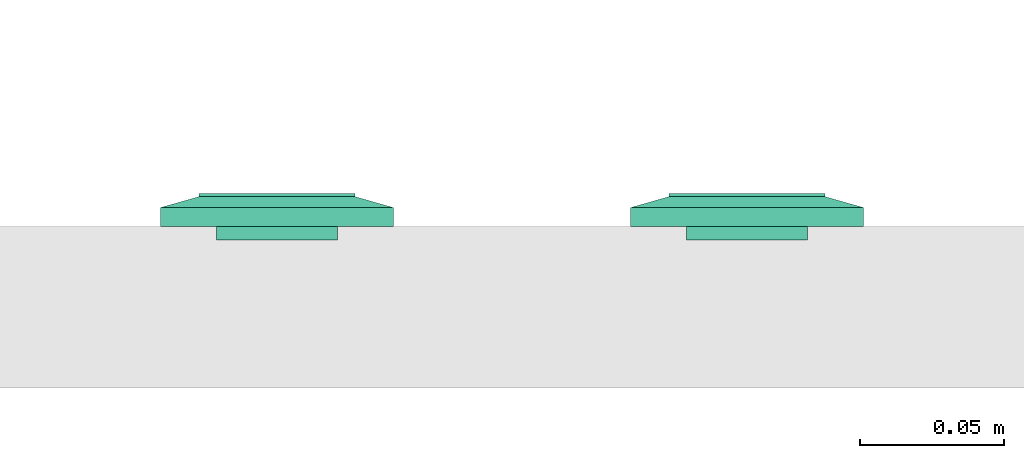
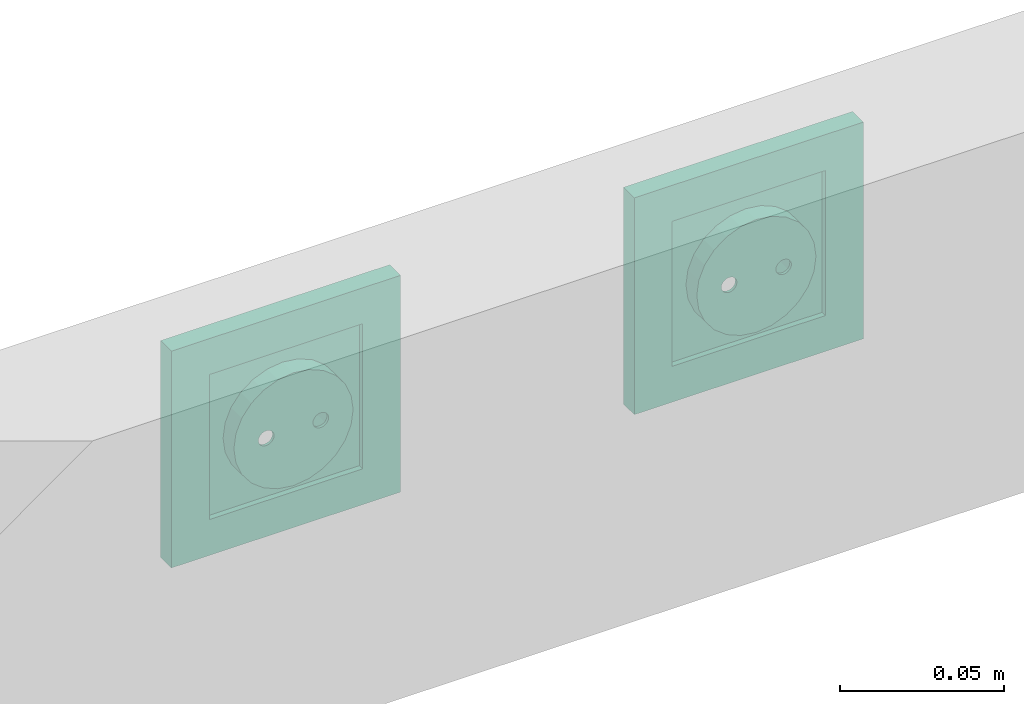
# One storey, part 30 of 166: 2 flow terminals.
"""IFC2X3 building model written with IfcOpenShell, lengths in metres."""

from ifc_helpers import new_model, entity, si_unit, converted_unit, derived_unit, direction, frame, origin, place, context, subcontext, project, spatial, face_set, surface_model, source, transform, mapped, type_object, type_shapes, element, save


model = new_model("IFC2X3")

# Units and contexts
model_context = context("Model", 3, precision=1e-05, world=origin(), true_north=direction((6.12303176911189e-17, 1.0)))
body_context = subcontext(model_context, "Body", "Model", "MODEL_VIEW")
ifc_project = project(units=[si_unit("LENGTHUNIT", "METRE"), si_unit("AREAUNIT", "SQUARE_METRE"), si_unit("VOLUMEUNIT", "CUBIC_METRE"), converted_unit("PLANEANGLEUNIT", "DEGREE", entity("IfcRatioMeasure", 0.0174532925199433), si_unit("PLANEANGLEUNIT", "RADIAN"), dimensions=[0, 0, 0, 0, 0, 0, 0]), si_unit("MASSUNIT", "GRAM", prefix="KILO"), derived_unit("MASSDENSITYUNIT", [(si_unit("MASSUNIT", "GRAM", prefix="KILO"), 1), (si_unit("LENGTHUNIT", "METRE"), -3)]), si_unit("TIMEUNIT", "SECOND"), si_unit("FREQUENCYUNIT", "HERTZ"), si_unit("THERMODYNAMICTEMPERATUREUNIT", "DEGREE_CELSIUS"), derived_unit("THERMALTRANSMITTANCEUNIT", [(si_unit("MASSUNIT", "GRAM", prefix="KILO"), 1), (si_unit("THERMODYNAMICTEMPERATUREUNIT", "KELVIN"), -1), (si_unit("TIMEUNIT", "SECOND"), -3)]), derived_unit("VOLUMETRICFLOWRATEUNIT", [(si_unit("LENGTHUNIT", "METRE"), 3), (si_unit("TIMEUNIT", "SECOND"), -1)]), si_unit("ELECTRICCURRENTUNIT", "AMPERE"), si_unit("ELECTRICVOLTAGEUNIT", "VOLT"), si_unit("POWERUNIT", "WATT"), si_unit("FORCEUNIT", "NEWTON"), si_unit("ILLUMINANCEUNIT", "LUX"), si_unit("LUMINOUSFLUXUNIT", "LUMEN"), si_unit("LUMINOUSINTENSITYUNIT", "CANDELA"), derived_unit("USERDEFINED", [(si_unit("MASSUNIT", "GRAM", prefix="KILO"), -1), (si_unit("LENGTHUNIT", "METRE"), -2), (si_unit("TIMEUNIT", "SECOND"), 3), (si_unit("LUMINOUSFLUXUNIT", "LUMEN"), 1)]), derived_unit("LINEARVELOCITYUNIT", [(si_unit("LENGTHUNIT", "METRE"), 1), (si_unit("TIMEUNIT", "SECOND"), -1)]), si_unit("PRESSUREUNIT", "PASCAL"), derived_unit("USERDEFINED", [(si_unit("LENGTHUNIT", "METRE"), -2), (si_unit("MASSUNIT", "GRAM", prefix="KILO"), 1), (si_unit("TIMEUNIT", "SECOND"), -2)])], contexts=[model_context])

# Site, building, storey
site_placement = place(None, origin())
site = spatial("IfcSite", under=ifc_project, at=site_placement, Name="Default", CompositionType="ELEMENT")
building_placement = place(site_placement, origin())
building = spatial("IfcBuilding", under=site, at=building_placement, CompositionType="ELEMENT")
storey_placement = place(building_placement, frame((0.0, 0.0, 4.27)))
storey = spatial("IfcBuildingStorey", under=building, at=storey_placement, Name="01", CompositionType="ELEMENT", Elevation=4.27)

# Flow terminals
light_fixture_type = type_object("IfcLightFixtureType", Name="IP20 ONDULEE", PredefinedType="NOTDEFINED")
shared_shape = source(origin(), body_context, "Body", "SurfaceModel", [
    surface_model("IfcFaceBasedSurfaceModel", [(-0.00225000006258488, 0.0127499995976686, 0.00949633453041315), (0.0, 0.0104999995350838, 0.00949633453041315), (0.0, 0.0115376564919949, 0.0101656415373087), (0.0, 0.0139623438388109, 0.0101656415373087), (0.0, 0.0144589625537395, 0.00984531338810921), (0.0, 0.0121178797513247, 0.0102778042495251), (0.0, 0.0133821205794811, 0.0102778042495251), (0.0, 0.0127499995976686, 0.010399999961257), (0.0, 0.0149999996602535, 0.00949633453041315), (0.00225000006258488, 0.0127499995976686, 0.00949633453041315), (0.0, 0.0110410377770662, 0.00984531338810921), (0.0, 0.0127499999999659, 0.00949633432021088), (0.00225000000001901, 0.0127499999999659, 0.00949633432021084), (0.00217333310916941, 0.0121676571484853, 0.00949633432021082), (0.00194855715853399, 0.0116249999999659, 0.00949633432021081), (0.00159099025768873, 0.0111590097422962, 0.00949633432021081), (0.001125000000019, 0.010801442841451, 0.00949633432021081), (0.00058234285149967, 0.0105766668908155, 0.00949633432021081), (0.0, 0.0104999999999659, 0.00949633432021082), (-0.000582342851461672, 0.0105766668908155, 0.00949633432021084), (-0.001124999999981, 0.010801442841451, 0.00949633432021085), (-0.00159099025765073, 0.0111590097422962, 0.00949633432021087), (-0.00194855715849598, 0.011624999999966, 0.00949633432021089), (-0.0021733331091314, 0.0121676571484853, 0.00949633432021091), (-0.00224999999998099, 0.012749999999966, 0.00949633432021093), (-0.00217333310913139, 0.0133323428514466, 0.00949633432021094), (-0.00194855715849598, 0.013874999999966, 0.00949633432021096), (-0.00159099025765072, 0.0143409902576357, 0.00949633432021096), (-0.00112499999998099, 0.0146985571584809, 0.00949633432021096), (-0.00058234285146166, 0.0149233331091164, 0.00949633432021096), (0.0, 0.0149999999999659, 0.00949633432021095), (0.000582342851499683, 0.0149233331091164, 0.00949633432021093), (0.00112500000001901, 0.0146985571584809, 0.00949633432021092), (0.00159099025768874, 0.0143409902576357, 0.00949633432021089), (0.001948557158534, 0.0138749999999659, 0.00949633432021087), (0.00217333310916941, 0.0133323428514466, 0.00949633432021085), (0.00225000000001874, 0.0127499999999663, -0.00360000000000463), (0.00217333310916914, 0.0121676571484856, -0.00360000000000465), (0.00194855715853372, 0.0116249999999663, -0.00360000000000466), (0.00159099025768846, 0.0111590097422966, -0.00360000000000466), (0.00112500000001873, 0.0108014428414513, -0.00360000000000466), (0.000582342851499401, 0.0105766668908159, -0.00360000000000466), (0.0, 0.0104999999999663, -0.00360000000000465), (-0.000582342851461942, 0.0105766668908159, -0.00360000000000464), (-0.00112499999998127, 0.0108014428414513, -0.00360000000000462), (-0.001590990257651, 0.0111590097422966, -0.0036000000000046), (-0.00194855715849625, 0.0116249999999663, -0.00360000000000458), (-0.00217333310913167, 0.0121676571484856, -0.00360000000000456), (-0.00224999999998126, 0.0127499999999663, -0.00360000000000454), (-0.00217333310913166, 0.013332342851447, -0.00360000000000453), (-0.00194855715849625, 0.0138749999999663, -0.00360000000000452), (-0.00159099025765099, 0.014340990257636, -0.00360000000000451), (-0.00112499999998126, 0.0146985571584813, -0.00360000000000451), (-0.000582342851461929, 0.0149233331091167, -0.00360000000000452), (0.0, 0.0149999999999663, -0.00360000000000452), (0.000582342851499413, 0.0149233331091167, -0.00360000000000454), (0.00112500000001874, 0.0146985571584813, -0.00360000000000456), (0.00159099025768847, 0.014340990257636, -0.00360000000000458), (0.00194855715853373, 0.0138749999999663, -0.0036000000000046), (0.00217333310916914, 0.013332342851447, -0.00360000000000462), (0.0270000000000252, 0.026999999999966, 0.0113999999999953), (-0.0269999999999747, 0.026999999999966, 0.0113999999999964), (-0.0269999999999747, -0.0270000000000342, 0.0113999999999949), (0.0270000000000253, -0.0270000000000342, 0.0113999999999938), (-0.0199999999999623, 0.0, 0.0113999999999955), (-0.0193185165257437, -0.00517638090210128, 0.0113999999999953), (-0.0173205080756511, -0.0100000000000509, 0.0113999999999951), (-0.0141421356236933, -0.0141421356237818, 0.011399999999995), (-0.00999999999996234, -0.0173205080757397, 0.0113999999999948), (-0.00517638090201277, -0.0193185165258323, 0.0113999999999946), (0.0, -0.0200000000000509, 0.0113999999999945), (0.00517638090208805, -0.0193185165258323, 0.0113999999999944), (0.0100000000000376, -0.0173205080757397, 0.0113999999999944), (0.0141421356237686, -0.0141421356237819, 0.0113999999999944), (0.0173205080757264, -0.010000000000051, 0.0113999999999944), (0.0193185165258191, -0.00517638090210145, 0.0113999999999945), (0.0200000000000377, 0.0, 0.0113999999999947), (0.0193185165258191, 0.00517638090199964, 0.0113999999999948), (0.0173205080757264, 0.0099999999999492, 0.011399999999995), (0.0141421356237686, 0.0141421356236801, 0.0113999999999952), (0.0100000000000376, 0.0173205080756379, 0.0113999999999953), (0.00517638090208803, 0.0193185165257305, 0.0113999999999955), (0.0, 0.0199999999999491, 0.0113999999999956), (-0.00517638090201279, 0.0193185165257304, 0.0113999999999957), (-0.00999999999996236, 0.0173205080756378, 0.0113999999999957), (-0.0141421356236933, 0.01414213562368, 0.0113999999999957), (-0.0173205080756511, 0.00999999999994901, 0.0113999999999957), (-0.0193185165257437, 0.00517638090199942, 0.0113999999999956), (0.0270000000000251, 0.0269999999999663, 0.00199999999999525), (0.0270000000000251, -0.0270000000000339, 0.00199999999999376), (-0.0269999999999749, -0.0270000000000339, 0.00199999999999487), (-0.0269999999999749, 0.0269999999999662, 0.00199999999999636), (0.0210000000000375, 0.0, 0.00199999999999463), (0.0202844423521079, -0.00543519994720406, 0.00199999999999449), (0.0181865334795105, -0.0105000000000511, 0.0019999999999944), (0.0148492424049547, -0.0148492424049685, 0.00199999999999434), (0.0105000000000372, -0.0181865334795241, 0.00199999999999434), (0.0054351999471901, -0.0202844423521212, 0.00199999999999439), (0.0, -0.0210000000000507, 0.00199999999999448), (-0.00543519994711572, -0.020284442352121, 0.00199999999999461), (-0.0104999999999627, -0.0181865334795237, 0.00199999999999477), (-0.0148492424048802, -0.014849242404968, 0.00199999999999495), (-0.0181865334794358, -0.0105000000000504, 0.00199999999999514), (-0.020284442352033, -0.00543519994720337, 0.00199999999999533), (-0.0209999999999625, 0.0, 0.00199999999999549), (-0.0202844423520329, 0.0054351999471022, 0.00199999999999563), (-0.0181865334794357, 0.0104999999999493, 0.00199999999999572), (-0.01484924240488, 0.0148492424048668, 0.00199999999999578), (-0.0104999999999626, 0.0181865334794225, 0.00199999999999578), (-0.00543519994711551, 0.0202844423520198, 0.00199999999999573), (0.0, 0.0209999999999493, 0.00199999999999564), (0.00543519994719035, 0.0202844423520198, 0.00199999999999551), (0.0105000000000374, 0.0181865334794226, 0.00199999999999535), (0.0148492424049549, 0.0148492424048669, 0.00199999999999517), (0.0181865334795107, 0.0104999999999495, 0.00199999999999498), (0.0202844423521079, 0.00543519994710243, 0.00199999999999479), (0.0200000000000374, 0.0, -0.00360000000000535), (0.0193185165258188, -0.00517638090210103, -0.00360000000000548), (0.0173205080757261, -0.0100000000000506, -0.00360000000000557), (0.0141421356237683, -0.0141421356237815, -0.00360000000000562), (0.0100000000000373, -0.0173205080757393, -0.00360000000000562), (0.00517638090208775, -0.0193185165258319, -0.00360000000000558), (0.0, -0.0200000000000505, -0.00360000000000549), (-0.00517638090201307, -0.0193185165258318, -0.00360000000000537), (-0.00999999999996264, -0.0173205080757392, -0.00360000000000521), (-0.0141421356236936, -0.0141421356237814, -0.00360000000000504), (-0.0173205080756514, -0.0100000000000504, -0.00360000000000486), (-0.019318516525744, -0.00517638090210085, -0.00360000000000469), (-0.0199999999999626, 0.0, -0.00360000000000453), (-0.0193185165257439, 0.00517638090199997, -0.0036000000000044), (-0.0173205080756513, 0.00999999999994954, -0.00360000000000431), (-0.0141421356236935, 0.0141421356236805, -0.00360000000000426), (-0.00999999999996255, 0.0173205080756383, -0.00360000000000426), (-0.00517638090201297, 0.0193185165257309, -0.0036000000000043), (0.0, 0.0199999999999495, -0.00360000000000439), (0.00517638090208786, 0.0193185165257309, -0.00360000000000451), (0.0100000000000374, 0.0173205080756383, -0.00360000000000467), (0.0141421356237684, 0.0141421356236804, -0.00360000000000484), (0.0173205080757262, 0.0099999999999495, -0.00360000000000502), (0.0193185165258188, 0.00517638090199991, -0.00360000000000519), (-0.0123499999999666, 0.0, -0.00360000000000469), (-0.0122562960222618, -0.000711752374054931, -0.00360000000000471), (-0.0119815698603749, -0.00137500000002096, -0.00360000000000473), (-0.0115445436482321, -0.00194454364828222, -0.00360000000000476), (-0.0109749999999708, -0.00238156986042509, -0.00360000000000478), (-0.0103117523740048, -0.00265629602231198, -0.0036000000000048), (-0.00959999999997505, -0.00275000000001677, -0.00360000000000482), (-0.0088882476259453, -0.00265629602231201, -0.00360000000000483), (-0.00822499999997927, -0.00238156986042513, -0.00360000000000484), (-0.00765545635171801, -0.00194454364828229, -0.00360000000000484), (-0.00721843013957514, -0.00137500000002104, -0.00360000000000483), (-0.00694370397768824, -0.000711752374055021, -0.00360000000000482), (-0.00684999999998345, 0.0, -0.0036000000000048), (-0.00694370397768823, 0.000711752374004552, -0.00360000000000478), (-0.00721843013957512, 0.00137499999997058, -0.00360000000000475), (-0.00765545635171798, 0.00194454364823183, -0.00360000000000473), (-0.00822499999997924, 0.00238156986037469, -0.0036000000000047), (-0.00888824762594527, 0.00265629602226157, -0.00360000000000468), (-0.00959999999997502, 0.00274999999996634, -0.00360000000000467), (-0.0103117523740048, 0.00265629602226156, -0.00360000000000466), (-0.0109749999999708, 0.00238156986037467, -0.00360000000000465), (-0.011544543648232, 0.00194454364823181, -0.00360000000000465), (-0.0119815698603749, 0.00137499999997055, -0.00360000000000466), (-0.0122562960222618, 0.000711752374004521, -0.00360000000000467), (0.00685000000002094, 0.0, -0.00360000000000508), (0.0069437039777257, -0.00071175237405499, -0.0036000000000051), (0.00721843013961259, -0.00137500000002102, -0.00360000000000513), (0.00765545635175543, -0.00194454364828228, -0.00360000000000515), (0.00822500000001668, -0.00238156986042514, -0.00360000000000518), (0.00888824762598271, -0.00265629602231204, -0.0036000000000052), (0.00960000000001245, -0.00275000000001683, -0.00360000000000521), (0.0103117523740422, -0.00265629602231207, -0.00360000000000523), (0.0109750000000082, -0.00238156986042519, -0.00360000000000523), (0.0115445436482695, -0.00194454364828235, -0.00360000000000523), (0.0119815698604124, -0.0013750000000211, -0.00360000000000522), (0.0122562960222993, -0.00071175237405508, -0.00360000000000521), (0.012350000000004, 0.0, -0.00360000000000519), (0.0122562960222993, 0.000711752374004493, -0.00360000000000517), (0.0119815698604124, 0.00137499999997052, -0.00360000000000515), (0.0115445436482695, 0.00194454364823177, -0.00360000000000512), (0.0109750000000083, 0.00238156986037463, -0.0036000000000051), (0.0103117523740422, 0.00265629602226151, -0.00360000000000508), (0.00960000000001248, 0.00274999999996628, -0.00360000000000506), (0.00888824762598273, 0.0026562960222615, -0.00360000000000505), (0.0082250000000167, 0.00238156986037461, -0.00360000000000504), (0.00765545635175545, 0.00194454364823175, -0.00360000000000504), (0.0072184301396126, 0.00137499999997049, -0.00360000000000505), (0.00694370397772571, 0.000711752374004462, -0.00360000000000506), (0.0210000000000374, 0.0, -0.00460000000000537), (0.0202844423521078, -0.00543519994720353, -0.00460000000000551), (0.0181865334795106, -0.0105000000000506, -0.0046000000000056), (0.0148492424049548, -0.0148492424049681, -0.00460000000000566), (0.0105000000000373, -0.0181865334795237, -0.00460000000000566), (0.00543519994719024, -0.0202844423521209, -0.00460000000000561), (0.0, -0.0210000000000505, -0.00460000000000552), (-0.00543519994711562, -0.0202844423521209, -0.00460000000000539), (-0.0104999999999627, -0.0181865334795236, -0.00460000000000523), (-0.0148492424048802, -0.0148492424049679, -0.00460000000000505), (-0.0181865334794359, -0.0105000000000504, -0.00460000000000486), (-0.0202844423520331, -0.00543519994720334, -0.00460000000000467), (-0.0209999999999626, 0.0, -0.00460000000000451), (-0.020284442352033, 0.00543519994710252, -0.00460000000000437), (-0.0181865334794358, 0.0104999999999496, -0.00460000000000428), (-0.0148492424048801, 0.0148492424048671, -0.00460000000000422), (-0.0104999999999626, 0.0181865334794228, -0.00460000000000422), (-0.00543519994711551, 0.02028444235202, -0.00460000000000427), (0.0, 0.0209999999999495, -0.00460000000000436), (0.00543519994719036, 0.02028444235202, -0.00460000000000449), (0.0105000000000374, 0.0181865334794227, -0.00460000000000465), (0.0148492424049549, 0.014849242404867, -0.00460000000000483), (0.0181865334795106, 0.0104999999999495, -0.00460000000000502), (0.0202844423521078, 0.00543519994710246, -0.00460000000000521), (-0.00684999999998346, 0.0, -0.0046000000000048), (-0.00694370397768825, 0.000711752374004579, -0.00460000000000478), (-0.00721843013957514, 0.00137499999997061, -0.00460000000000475), (-0.007655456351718, 0.00194454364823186, -0.00460000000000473), (-0.00822499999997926, 0.00238156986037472, -0.0046000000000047), (-0.00888824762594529, 0.0026562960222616, -0.00460000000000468), (-0.00959999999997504, 0.00274999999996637, -0.00460000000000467), (-0.0103117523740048, 0.00265629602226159, -0.00460000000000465), (-0.0109749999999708, 0.0023815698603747, -0.00460000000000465), (-0.0115445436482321, 0.00194454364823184, -0.00460000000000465), (-0.0119815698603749, 0.00137499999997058, -0.00460000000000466), (-0.0122562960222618, 0.000711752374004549, -0.00460000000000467), (-0.0123499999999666, 0.0, -0.00460000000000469), (-0.0122562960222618, -0.000711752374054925, -0.00460000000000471), (-0.0119815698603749, -0.00137500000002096, -0.00460000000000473), (-0.0115445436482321, -0.00194454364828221, -0.00460000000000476), (-0.0109749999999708, -0.00238156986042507, -0.00460000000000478), (-0.0103117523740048, -0.00265629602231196, -0.0046000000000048), (-0.00959999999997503, -0.00275000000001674, -0.00460000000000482), (-0.00888824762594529, -0.00265629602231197, -0.00460000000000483), (-0.00822499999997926, -0.00238156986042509, -0.00460000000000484), (-0.007655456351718, -0.00194454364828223, -0.00460000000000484), (-0.00721843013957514, -0.00137500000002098, -0.00460000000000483), (-0.00694370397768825, -0.000711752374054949, -0.00460000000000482), (0.012350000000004, 0.0, -0.00460000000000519), (0.0122562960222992, 0.000711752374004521, -0.00460000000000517), (0.0119815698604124, 0.00137499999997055, -0.00460000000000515), (0.0115445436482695, 0.0019445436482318, -0.00460000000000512), (0.0109750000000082, 0.00238156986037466, -0.0046000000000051), (0.0103117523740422, 0.00265629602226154, -0.00460000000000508), (0.00960000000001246, 0.00274999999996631, -0.00460000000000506), (0.00888824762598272, 0.00265629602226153, -0.00460000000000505), (0.00822500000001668, 0.00238156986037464, -0.00460000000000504), (0.00765545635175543, 0.00194454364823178, -0.00460000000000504), (0.00721843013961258, 0.00137499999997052, -0.00460000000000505), (0.00694370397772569, 0.00071175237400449, -0.00460000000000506), (0.00685000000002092, 0.0, -0.00460000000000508), (0.00694370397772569, -0.000711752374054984, -0.0046000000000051), (0.00721843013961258, -0.00137500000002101, -0.00460000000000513), (0.00765545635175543, -0.00194454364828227, -0.00460000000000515), (0.00822500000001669, -0.00238156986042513, -0.00460000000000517), (0.00888824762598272, -0.00265629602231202, -0.0046000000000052), (0.00960000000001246, -0.0027500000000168, -0.00460000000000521), (0.0103117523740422, -0.00265629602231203, -0.00460000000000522), (0.0109750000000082, -0.00238156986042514, -0.00460000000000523), (0.0115445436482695, -0.00194454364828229, -0.00460000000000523), (0.0119815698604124, -0.00137500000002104, -0.00460000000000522), (0.0122562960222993, -0.000711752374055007, -0.00460000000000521), (0.040350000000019, 0.0403499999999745, 0.00659999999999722), (0.040350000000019, -0.0403500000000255, 0.00659999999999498), (-0.0403499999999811, -0.0403500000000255, 0.00659999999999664), (-0.0403499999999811, 0.0403499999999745, 0.00659999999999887), (0.027000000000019, 0.0269999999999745, 0.00659999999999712), (-0.0269999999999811, 0.0269999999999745, 0.00659999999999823), (-0.026999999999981, -0.0270000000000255, 0.00659999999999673), (0.027000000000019, -0.0270000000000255, 0.00659999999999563), (0.027000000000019, 0.0269999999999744, 0.0103999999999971), (-0.026999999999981, 0.0269999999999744, 0.0103999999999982), (-0.026999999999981, -0.0270000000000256, 0.0103999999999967), (0.027000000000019, -0.0270000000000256, 0.0103999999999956), (0.040350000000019, 0.0403499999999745, 0.00659999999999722), (0.040350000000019, -0.0403500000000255, 0.00659999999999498), (-0.0403499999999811, -0.0403500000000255, 0.00659999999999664), (-0.0403499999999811, 0.0403499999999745, 0.00659999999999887), (-0.0269999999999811, 0.0269999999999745, 0.00659999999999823), (-0.0269999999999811, -0.0270000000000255, 0.00659999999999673), (0.0270000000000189, -0.0270000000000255, 0.00659999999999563), (0.0270000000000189, 0.0269999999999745, 0.00659999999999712), (0.0403500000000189, 0.0403499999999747, 0.0), (0.0403500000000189, -0.0403500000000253, 0.0), (-0.0403499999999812, -0.0403500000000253, 0.0), (-0.0403499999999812, 0.0403499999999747, 0.0), (0.0270000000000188, 0.0269999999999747, 0.0), (-0.0269999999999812, 0.0269999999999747, 0.0), (-0.0269999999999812, -0.0270000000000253, 0.0), (0.0270000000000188, -0.0270000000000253, 0.0)], [face_set([[[0, 1, 2]], [[3, 4, 2, 5]], [[6, 3, 5, 7]], [[2, 4, 0]], [[4, 8, 0]], [[3, 9, 8]], [[1, 9, 10]], [[2, 3, 6, 7]], [[3, 10, 9]], [[2, 10, 3]], [[11, 1, 0, 8]], [[11, 8, 9, 1]]]), face_set([[[12, 13, 14, 15, 16, 17, 18, 19, 20, 21, 22, 23, 24, 25, 26, 27, 28, 29, 30, 31, 32, 33, 34, 35]], [[36, 37, 38, 39, 40, 41, 42, 43, 44, 45, 46, 47, 48, 49, 50, 51, 52, 53, 54, 55, 56, 57, 58, 59]], [[48, 47, 23, 24]], [[47, 46, 22, 23]], [[45, 44, 20, 21]], [[46, 45, 21, 22]], [[44, 43, 19, 20]], [[18, 19, 43, 42]], [[42, 41, 17, 18]], [[41, 40, 16, 17]], [[39, 38, 14, 15]], [[40, 39, 15, 16]], [[38, 37, 13, 14]], [[12, 13, 37, 36]], [[36, 59, 35, 12]], [[59, 58, 34, 35]], [[57, 56, 32, 33]], [[58, 57, 33, 34]], [[56, 55, 31, 32]], [[30, 31, 55, 54]], [[54, 53, 29, 30]], [[53, 52, 28, 29]], [[51, 50, 26, 27]], [[52, 51, 27, 28]], [[50, 49, 25, 26]], [[24, 25, 49, 48]]]), face_set([[[60, 61, 62, 63], [64, 65, 66, 67, 68, 69, 70, 71, 72, 73, 74, 75, 76, 77, 78, 79, 80, 81, 82, 83, 84, 85, 86, 87]], [[88, 89, 90, 91], [92, 93, 94, 95, 96, 97, 98, 99, 100, 101, 102, 103, 104, 105, 106, 107, 108, 109, 110, 111, 112, 113, 114, 115]], [[61, 60, 88, 91]], [[62, 61, 91, 90]], [[63, 62, 90, 89]], [[60, 63, 89, 88]], [[116, 117, 118, 119, 120, 121, 122, 123, 124, 125, 126, 127, 128, 129, 130, 131, 132, 133, 134, 135, 136, 137, 138, 139], [140, 141, 142, 143, 144, 145, 146, 147, 148, 149, 150, 151, 152, 153, 154, 155, 156, 157, 158, 159, 160, 161, 162, 163], [164, 165, 166, 167, 168, 169, 170, 171, 172, 173, 174, 175, 176, 177, 178, 179, 180, 181, 182, 183, 184, 185, 186, 187]], [[64, 128, 127, 65]], [[65, 127, 126, 66]], [[67, 125, 124, 68]], [[66, 126, 125, 67]], [[68, 124, 123, 69]], [[122, 70, 69, 123]], [[70, 122, 121, 71]], [[71, 121, 120, 72]], [[73, 119, 118, 74]], [[72, 120, 119, 73]], [[74, 118, 117, 75]], [[116, 76, 75, 117]], [[76, 116, 139, 77]], [[77, 139, 138, 78]], [[79, 137, 136, 80]], [[78, 138, 137, 79]], [[80, 136, 135, 81]], [[134, 82, 81, 135]], [[82, 134, 133, 83]], [[83, 133, 132, 84]], [[84, 132, 131, 85]], [[85, 131, 130, 86]], [[130, 129, 87, 86]], [[64, 87, 129, 128]], [[188, 189, 190, 191, 192, 193, 194, 195, 196, 197, 198, 199, 200, 201, 202, 203, 204, 205, 206, 207, 208, 209, 210, 211], [212, 213, 214, 215, 216, 217, 218, 219, 220, 221, 222, 223, 224, 225, 226, 227, 228, 229, 230, 231, 232, 233, 234, 235], [236, 237, 238, 239, 240, 241, 242, 243, 244, 245, 246, 247, 248, 249, 250, 251, 252, 253, 254, 255, 256, 257, 258, 259]], [[200, 199, 103, 104]], [[199, 198, 102, 103]], [[197, 196, 100, 101]], [[198, 197, 101, 102]], [[196, 195, 99, 100]], [[98, 99, 195, 194]], [[194, 193, 97, 98]], [[193, 192, 96, 97]], [[191, 190, 94, 95]], [[192, 191, 95, 96]], [[190, 189, 93, 94]], [[92, 93, 189, 188]], [[188, 211, 115, 92]], [[211, 210, 114, 115]], [[209, 208, 112, 113]], [[210, 209, 113, 114]], [[208, 207, 111, 112]], [[110, 111, 207, 206]], [[206, 205, 109, 110]], [[205, 204, 108, 109]], [[203, 202, 106, 107]], [[204, 203, 107, 108]], [[202, 201, 105, 106]], [[104, 105, 201, 200]], [[141, 225, 226, 142]], [[140, 224, 225, 141]], [[144, 228, 229, 145]], [[143, 227, 228, 144]], [[142, 226, 227, 143]], [[230, 146, 145, 229]], [[149, 233, 232, 148]], [[148, 232, 231, 147]], [[152, 212, 235, 151]], [[151, 235, 234, 150]], [[150, 234, 233, 149]], [[146, 230, 231, 147]], [[154, 214, 213, 153]], [[153, 213, 212, 152]], [[157, 217, 216, 156]], [[156, 216, 215, 155]], [[155, 215, 214, 154]], [[218, 158, 157, 217]], [[160, 220, 221, 161]], [[159, 219, 220, 160]], [[163, 223, 224, 140]], [[162, 222, 223, 163]], [[161, 221, 222, 162]], [[158, 218, 219, 159]], [[166, 250, 249, 165]], [[165, 249, 248, 164]], [[169, 253, 252, 168]], [[168, 252, 251, 167]], [[167, 251, 250, 166]], [[254, 170, 169, 253]], [[172, 256, 257, 173]], [[171, 255, 256, 172]], [[175, 259, 236, 176]], [[174, 258, 259, 175]], [[173, 257, 258, 174]], [[170, 254, 255, 171]], [[177, 237, 238, 178]], [[176, 236, 237, 177]], [[180, 240, 241, 181]], [[179, 239, 240, 180]], [[178, 238, 239, 179]], [[242, 182, 181, 241]], [[185, 245, 244, 184]], [[184, 244, 243, 183]], [[164, 248, 247, 187]], [[187, 247, 246, 186]], [[186, 246, 245, 185]], [[182, 242, 243, 183]]]), face_set([[[260, 261, 262, 263], [264, 265, 266, 267]], [[260, 268, 269, 263]], [[263, 269, 270, 262]], [[262, 270, 271, 261]], [[261, 271, 268, 260]], [[264, 265, 269, 268]], [[265, 266, 270, 269]], [[266, 267, 271, 270]], [[268, 271, 267, 264]]]), face_set([[[272, 273, 274, 275], [276, 277, 278, 279]], [[280, 281, 282, 283], [284, 285, 286, 287]], [[275, 272, 280, 283]], [[274, 275, 283, 282]], [[273, 274, 282, 281]], [[272, 273, 281, 280]], [[284, 285, 276, 279]], [[285, 286, 277, 276]], [[286, 287, 278, 277]], [[279, 278, 287, 284]]])]),
])
type_shapes(light_fixture_type, [shared_shape])
for number, where, z_axis, x_axis in (
    (1, (29.7494476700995, -190.52806962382, 4.70800000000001), (0.0, 1.0, 0.0), (-1.0, 0.0, 0.0)),
    (2, (29.5864476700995, -190.52806962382, 4.70800000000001), (0.0, 1.0, 0.0), (-1.0, 0.0, 0.0)),
):
    element("IfcFlowTerminal", number, at=place(building_placement, frame(where, z_axis=z_axis, x_axis=x_axis)), inside=storey, type_object=light_fixture_type, Name="INT Prise de courant:IP20 ONDULEE", ObjectType="INT Prise de courant:IP20 ONDULEE", context=body_context, shape_type="MappedRepresentation", body=[
        mapped(shared_shape, transform((0.0, 0.0, 0.0), scale=1.0)),
    ])

save(model, "model.ifc")
